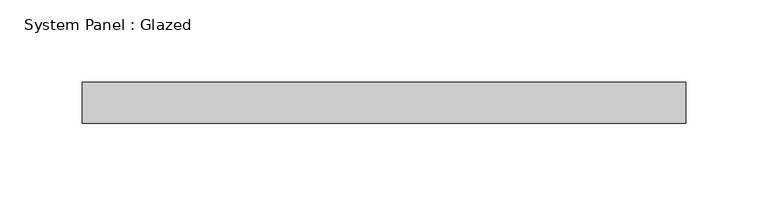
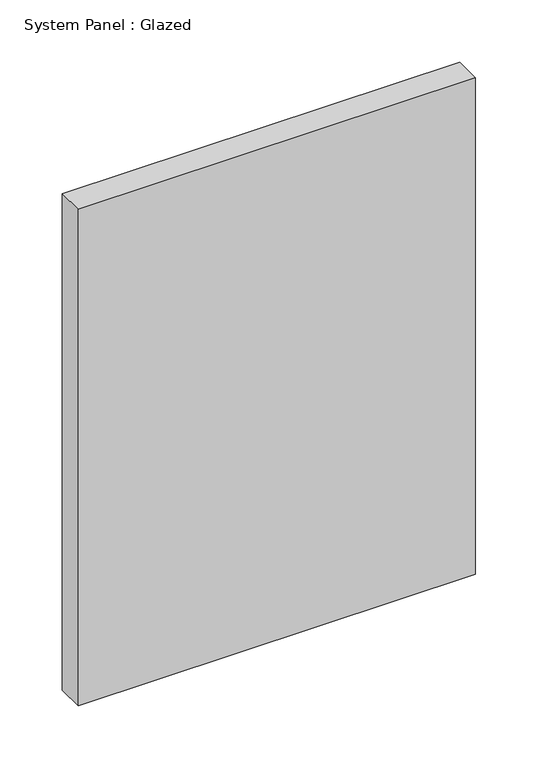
"""IFC4 building model written with IfcOpenShell, lengths in millimetres: plate geometry, System Panel : Glazed."""

from ifc_helpers import new_model, si_unit, origin, origin_with_axes, place, context, project, spatial, polyline, outline, extrude, source, transform, mapped, element, save


def system_panel_glazed_63757f84(model_context):
    return source(origin(), model_context, "Body", "SweptSolid", [
        extrude(outline(polyline([(183.5786438, -12.5), (-183.5786438, -12.5), (-183.5786438, 12.5), (183.5786438, 12.5), (183.5786438, -12.5)])), origin_with_axes(), (0.0, 0.0, 1.0), 485.0),
    ])


if __name__ == "__main__":
    model = new_model("IFC4")
    model_context = context("Model", 3, world=origin())
    ifc_project = project(units=[si_unit("LENGTHUNIT", "METRE", prefix="MILLI")], contexts=[model_context])
    site = spatial("IfcSite", under=ifc_project)
    building = spatial("IfcBuilding", under=site)
    placement = place(None, origin())
    system_panel_glazed_shape = system_panel_glazed_63757f84(model_context)
    element("IfcPlate", 1, ObjectType="System Panel : Glazed", at=placement, inside=building, context=model_context, shape_type="MappedRepresentation", body=[
        mapped(system_panel_glazed_shape, transform((0.0, 0.0, 0.0), x_axis=(1.0, 0.0, 0.0), y_axis=(0.0, 1.0, 0.0), z_axis=(0.0, 0.0, 1.0))),
    ])
    save(model, "model.ifc")
